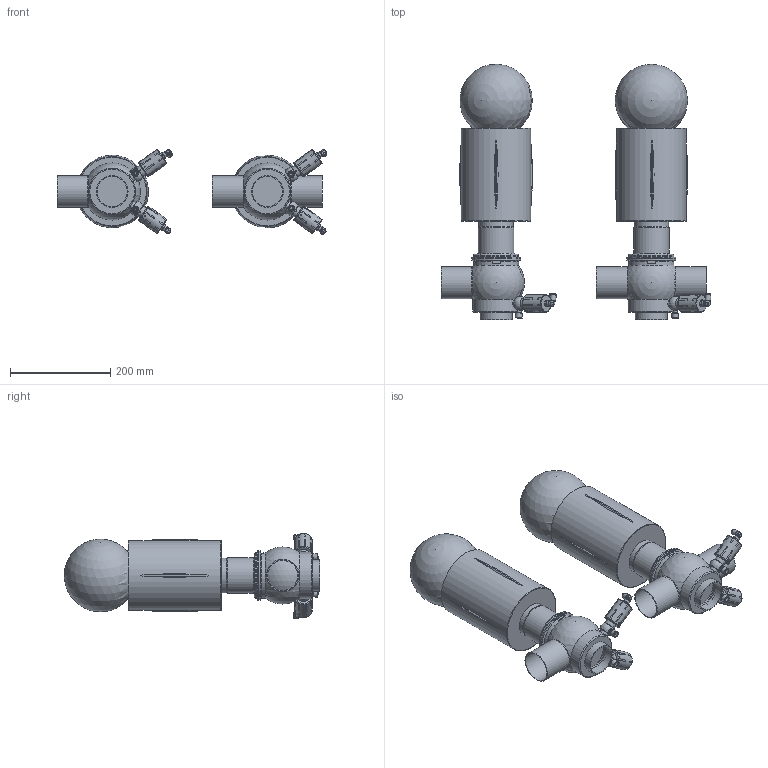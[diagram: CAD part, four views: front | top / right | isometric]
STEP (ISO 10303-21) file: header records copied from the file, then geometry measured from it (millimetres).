
FILE_DESCRIPTION(/* description */ (''),/* implementation_level */ '2;1');
FILE_NAME(/* name */ 'C:\Users\marz-m\Downloads\BZZAW3 3D STEP\BZAW3-DN0635x1.65.stp',/* time_stamp */ '2018-09-26T13:42:21+02:00',/* author */ ('marz-m'),/* organization */ (''),/* preprocessor_version */ 'ST-DEVELOPER v17',/* originating_system */ 'Autodesk Inventor 2018',/* authorisation */ '');
FILE_SCHEMA (('AUTOMOTIVE_DESIGN { 1 0 10303 214 3 1 1 }'));
Length unit declared in the file: millimetre
Products named in the file (7): BZAW3-DN0635x1.65; TRH5C0212BBA; Assemblaggio-DN065; CIL134; 3DCMP000281; TRH6C0212BBA; Valvolina 3A
Assembly tree (12 placements, depth 2):
  BZAW3-DN0635x1.65
    3DCMP000281  x2
    CIL134  x2
    Assemblaggio-DN065  x2
    TRH5C0212BBA
    TRH6C0212BBA
    Valvolina 3A  x4
Bounding box: 539.04 x 509.47 x 169.47 mm (x, y, z)
Volume: 11331756.7 mm3; surface area: 670238.5 mm2
Topology: 12 solids, 12 shells, 642 faces, 1838 edges, 1300 vertices
Faces by surface type: plane 279, cylinder 192, cone 89, bspline 44, torus 27, sphere 11
Full cylindrical faces by diameter (mm): 2 x8, 6 x16, 7 x4, 8 x4, 8.1 x4, 10 x4, 11 x4, 11.5 x4, 12.918 x4, 13.157 x4, 14 x4, 15.9 x4, 16 x4, 20 x4, 22 x4, 35 x4, 60.2 x5, 61 x2, 63.5 x5, 69 x2, 71 x2, 90 x4, 93 x2, 98 x4, 139 x2
Entity records: 10270 total; most frequent: CARTESIAN_POINT 3762, DIRECTION 1309, ORIENTED_EDGE 1282, EDGE_CURVE 641, AXIS2_PLACEMENT_3D 552, VERTEX_POINT 466, CIRCLE 304, EDGE_LOOP 277
